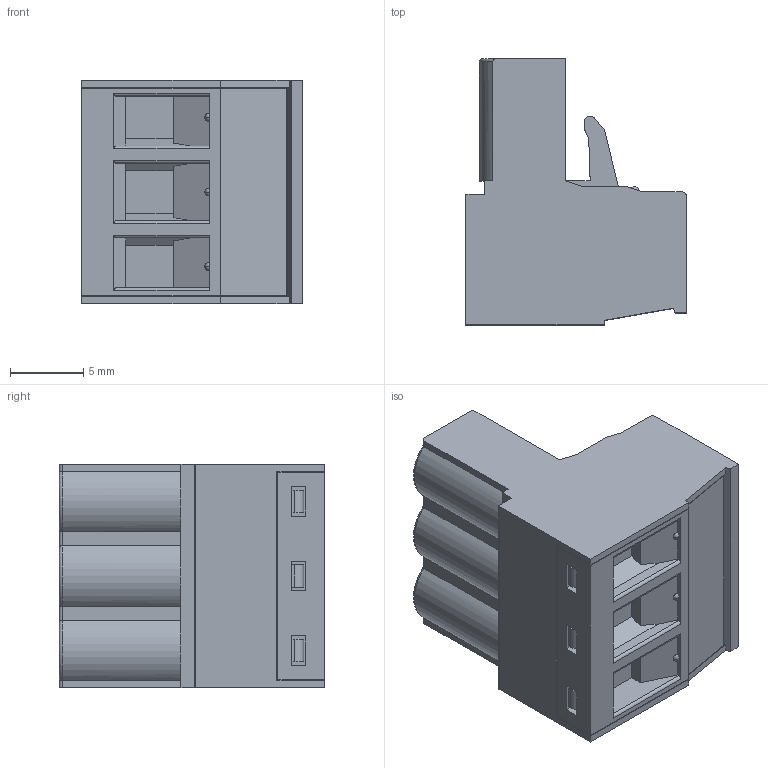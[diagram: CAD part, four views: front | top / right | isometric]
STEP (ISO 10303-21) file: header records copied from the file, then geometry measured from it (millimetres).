
FILE_DESCRIPTION (( 'STEP AP203' ), '1' );
FILE_NAME ('BR8F1-03.STEP', '2020-03-04T00:46:30', ( '' ), ( '' ), 'SwSTEP 2.0', 'SolidWorks 2019', '' );
FILE_SCHEMA (( 'CONFIG_CONTROL_DESIGN' ));
Length unit declared in the file: millimetre
Products named in the file (1): BR8F1-03
Bounding box: 15.05 x 18.1 x 15.24 mm (x, y, z)
Volume: 2455.3 mm3; surface area: 2337.9 mm2
Topology: 1 solids, 1 shells, 433 faces, 1163 edges, 750 vertices
Faces by surface type: plane 281, cylinder 98, cone 24, torus 18, sphere 12
Entity records: 13756 total; most frequent: CARTESIAN_POINT 2725, ORIENTED_EDGE 2326, DIRECTION 2215, EDGE_CURVE 1163, LINE 867, VECTOR 867, VERTEX_POINT 750, AXIS2_PLACEMENT_3D 674
